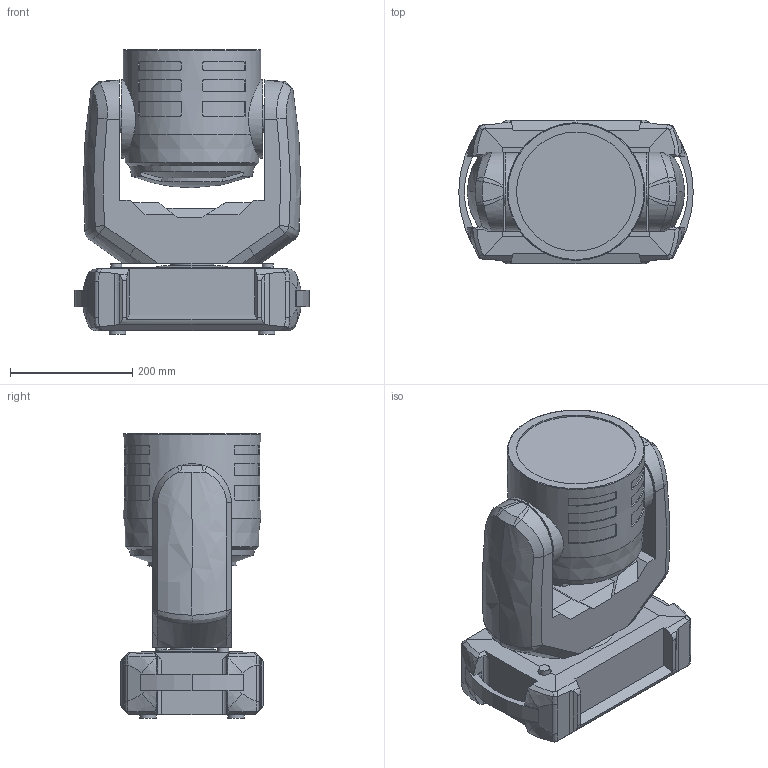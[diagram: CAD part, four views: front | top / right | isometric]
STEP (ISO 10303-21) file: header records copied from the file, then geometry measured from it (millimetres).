
FILE_DESCRIPTION(/* description */ ('Unknown'),/* implementation_level */ '2;1');
FILE_NAME(/* name */ '3D_iBeam350',/* time_stamp */ '2023-11-06T08:24:36+01:00',/* author */ ('Unknown'),/* organization */ ('Unknown'),/* preprocessor_version */ 'ST-DEVELOPER v18.104',/* originating_system */ 'Solid Edge',/* authorisation */ 'Unknown');
FILE_SCHEMA (('AUTOMOTIVE_DESIGN {1 0 10303 214 3 1 1}'));
Length unit declared in the file: millimetre
Products named in the file (4): 3D-Robin iBeam350; iBeam350_base; iBeam350_arm; iBeam350_head
Assembly tree (3 placements, depth 2):
  3D-Robin iBeam350
    iBeam350_base
    iBeam350_arm
    iBeam350_head
Bounding box: 384.13 x 235.3 x 466.4 mm (x, y, z)
Volume: 21563898.1 mm3; surface area: 793384.4 mm2
Topology: 3 solids, 3 shells, 361 faces, 959 edges, 623 vertices
Faces by surface type: plane 151, cylinder 120, bspline 82, cone 4, sphere 3, torus 1
Full cylindrical faces by diameter (mm): 18 x2, 21.5 x2, 27 x4, 44 x2, 50 x1, 72 x1, 128 x2, 195 x1, 225 x1
Entity records: 13313 total; most frequent: CARTESIAN_POINT 5177, ORIENTED_EDGE 1852, DIRECTION 1366, EDGE_CURVE 926, VERTEX_POINT 612, AXIS2_PLACEMENT_3D 499, EDGE_LOOP 406, FACE_BOUND 406
